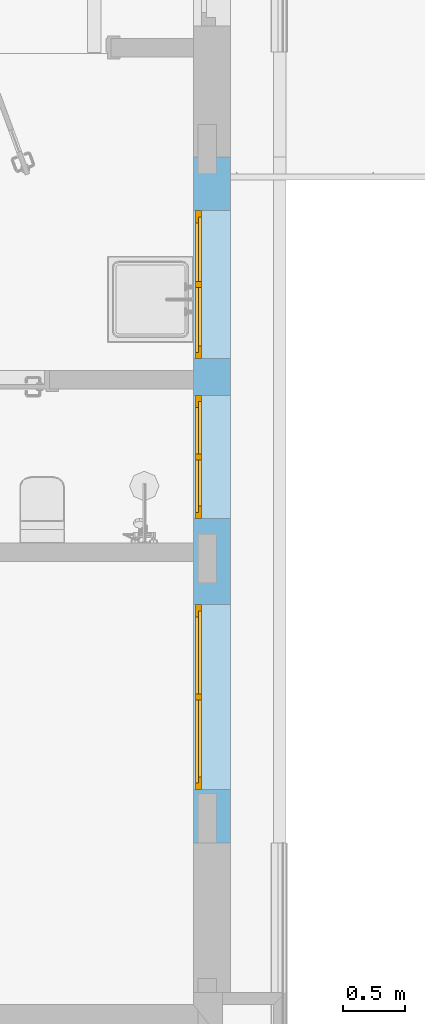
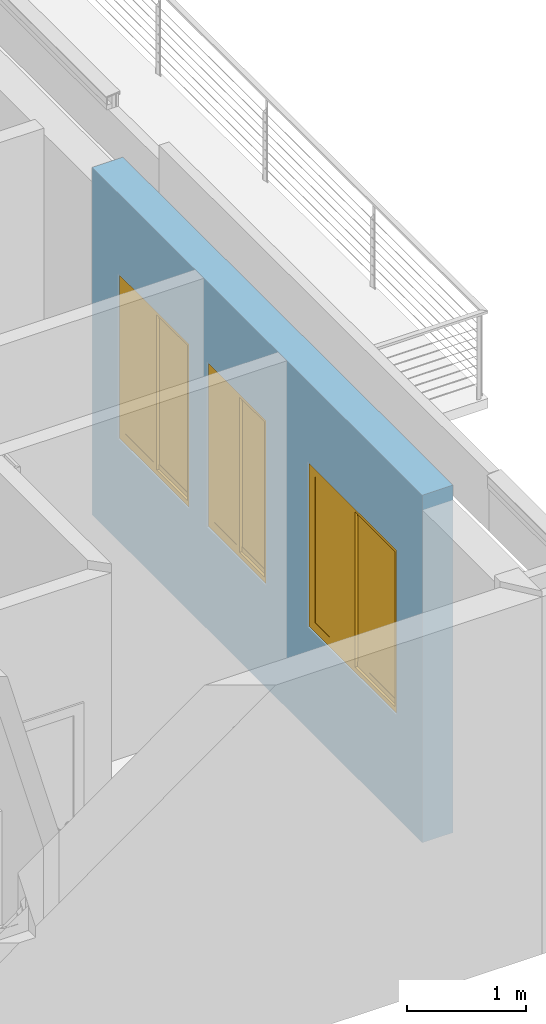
# One storey, part 11 of 26: 3 windows, 3 openings, plus 1 element that does not belong to this part.
"""IFC2X3 building model written with IfcOpenShell, lengths in millimetres."""

from ifc_helpers import new_model, entity, si_unit, converted_unit, money_unit, direction, frame, origin_with_axes, origin_2d_with_axis, place, context, subcontext, project, spatial, polyline, rectangle, outline, extrude, open_shell, faceted_brep, surface_model, material, material_list, layer, layer_set, layer_usage, type_object, element, fill, save


model = new_model("IFC2X3")

# Units and contexts
model_context = context("Model", 3, precision=1e-05, world=origin_with_axes(), true_north=direction((0.0, 1.0)))
body_context = subcontext(model_context, "Body", "Model", "MODEL_VIEW")
ifc_project = project(units=[si_unit("LENGTHUNIT", "METRE", prefix="MILLI"), si_unit("AREAUNIT", "SQUARE_METRE"), si_unit("VOLUMEUNIT", "CUBIC_METRE"), converted_unit("PLANEANGLEUNIT", "DEGREE", entity("IfcPlaneAngleMeasure", 0.0174532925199), si_unit("PLANEANGLEUNIT", "RADIAN"), dimensions=[0, 0, 0, 0, 0, 0, 0]), si_unit("SOLIDANGLEUNIT", "STERADIAN"), money_unit("USD"), converted_unit("TIMEUNIT", "Year", entity("IfcTimeMeasure", 31556926.0), si_unit("TIMEUNIT", "SECOND"), dimensions=[0, 0, 0, 0, 0, 0, 0]), si_unit("MASSUNIT", "GRAM"), si_unit("THERMODYNAMICTEMPERATUREUNIT", "DEGREE_CELSIUS"), si_unit("LUMINOUSINTENSITYUNIT", "LUMEN")], contexts=[model_context])

# Site, building, storey
site_placement = place(None, origin_with_axes())
site = spatial("IfcSite", under=ifc_project, at=site_placement, Name="Grove Residential", CompositionType="ELEMENT")
building_placement = place(site_placement, origin_with_axes())
building = spatial("IfcBuilding", under=site, at=building_placement, Name="Building", CompositionType="ELEMENT")
storey_placement = place(building_placement, origin_with_axes())
storey = spatial("IfcBuildingStorey", under=building, at=storey_placement, Name="Ground Floor", CompositionType="ELEMENT", Elevation=0.0)

# Wall, openings, windows
ifc_material_1 = material(Name="Timber - External Cladding")
ifc_layer_1 = layer(ifc_material_1, 40.0, ventilated="UNKNOWN")
ifc_material_2 = material(Name="Air Space - Fixing Zone")
ifc_layer_2 = layer(ifc_material_2, 25.0, ventilated="UNKNOWN")
ifc_material_3 = material(Name="Insulation - Plastic Soft")
ifc_layer_3 = layer(ifc_material_3, 50.0, ventilated="UNKNOWN")
ifc_material_4 = material(Name="Concrete Block")
ifc_layer_4 = layer(ifc_material_4, 150.0, ventilated="UNKNOWN")
ifc_layer_5 = layer(ifc_material_2, 10.0, ventilated="UNKNOWN")
ifc_material_5 = material(Name="Gypsum Plasterboard")
ifc_layer_6 = layer(ifc_material_5, 12.5, ventilated="UNKNOWN")
ifc_layer_7 = layer(ifc_material_5, 12.5, ventilated="UNKNOWN")
ifc_layer_set = layer_set([ifc_layer_1, ifc_layer_2, ifc_layer_3, ifc_layer_4, ifc_layer_5, ifc_layer_6, ifc_layer_7], Name="EWF - 002")
ifc_layer_usage = layer_usage(ifc_layer_set, "AXIS2", "NEGATIVE", 115.0)
wall_type = type_object("IfcWallType", Name="EWF - 002 300", PredefinedType="NOTDEFINED")
wall_placement = place(storey_placement, frame((10185.0, 7035.0, -50.0), z_axis=(0.0, 0.0, 1.0), x_axis=(0.0, -1.0, 0.0)))
wall = element("IfcWallStandardCase", 1, at=wall_placement, inside=storey, type_object=wall_type, material=ifc_layer_usage, Name="SW - 002", context=body_context, shape_type="SweptSolid", body=[
    extrude(outline(polyline([(0.0, -185.0), (5570.00007691, -185.0), (5570.00007691, 115.0), (0.0, 115.0), (0.0, -185.0)])), origin_with_axes(), (0.0, 0.0, 1.0), 3580.0),
])
opening_1_placement = place(wall_placement, frame((1035.0, 0.0, 1050.0), z_axis=(0.0, 0.0, 1.0), x_axis=(1.0, 0.0, 0.0)))
opening_1 = element("IfcOpeningElement", 2, at=opening_1_placement, cuts=wall, Name="W.06", context=body_context, shape_type="SweptSolid", body=[
    extrude(rectangle(XDim=1200.0, YDim=1700.0, at=origin_2d_with_axis()), frame((0.0, -120.0, 850.0), z_axis=(0.0, -1.0, 0.0), x_axis=(-1.0, 0.0, 0.0)), (0.0, 0.0, -1.0), 535.0),
    extrude(rectangle(XDim=1200.0, YDim=1700.0, at=origin_2d_with_axis()), frame((0.0, -120.0, 850.0), z_axis=(0.0, 1.0, 0.0), x_axis=(-1.0, 0.0, 0.0)), (0.0, 0.0, -1.0), 365.0),
])
opening_2_placement = place(wall_placement, frame((4385.0, 0.0, 1050.0), z_axis=(0.0, 0.0, 1.0), x_axis=(1.0, 0.0, 0.0)))
opening_2 = element("IfcOpeningElement", 3, at=opening_2_placement, cuts=wall, Name="W.08", context=body_context, shape_type="SweptSolid", body=[
    extrude(rectangle(XDim=1500.0, YDim=1700.0, at=origin_2d_with_axis()), frame((0.0, -120.0, 850.0), z_axis=(0.0, -1.0, 0.0), x_axis=(-1.0, 0.0, 0.0)), (0.0, 0.0, -1.0), 535.0),
    extrude(rectangle(XDim=1500.0, YDim=1700.0, at=origin_2d_with_axis()), frame((0.0, -120.0, 850.0), z_axis=(0.0, 1.0, 0.0), x_axis=(-1.0, 0.0, 0.0)), (0.0, 0.0, -1.0), 365.0),
])
opening_3_placement = place(wall_placement, frame((2435.0, 0.0, 1050.0), z_axis=(0.0, 0.0, 1.0), x_axis=(1.0, 0.0, 0.0)))
opening_3 = element("IfcOpeningElement", 4, at=opening_3_placement, cuts=wall, Name="W.04", context=body_context, shape_type="SweptSolid", body=[
    extrude(rectangle(XDim=1000.0, YDim=1700.0, at=origin_2d_with_axis()), frame((0.0, -120.0, 850.0), z_axis=(0.0, -1.0, 0.0), x_axis=(-1.0, 0.0, 0.0)), (0.0, 0.0, -1.0), 535.0),
    extrude(rectangle(XDim=1000.0, YDim=1700.0, at=origin_2d_with_axis()), frame((0.0, -120.0, 850.0), z_axis=(0.0, 1.0, 0.0), x_axis=(-1.0, 0.0, 0.0)), (0.0, 0.0, -1.0), 365.0),
])
ifc_material_6 = material(Name="Background")
ifc_material_7 = material(Name="Air Space")
ifc_material_8 = material(Name="Rigid Insulation")
ifc_material_9 = material(Name="Batt Insulation")
ifc_material_list = material_list([ifc_material_6, ifc_material_7, ifc_material_6, ifc_material_6, ifc_material_6, ifc_material_8, ifc_material_6, ifc_material_6, ifc_material_6, ifc_material_6, ifc_material_7, ifc_material_6, ifc_material_9])
window_style = type_object("IfcWindowStyle", Name="Window 21", ConstructionType="NOTDEFINED", OperationType="DOUBLE_PANEL_VERTICAL", ParameterTakesPrecedence=False, Sizeable=False)
window_1_placement = place(opening_1_placement, frame((600.0, 0.0, 0.0), z_axis=(0.0, 0.0, 1.0), x_axis=(-1.0, 0.0, 0.0)))
window_1 = element("IfcWindow", 5, at=window_1_placement, inside=storey, type_object=window_style, material=ifc_material_list, Name="W.06", OverallHeight=1700.0, OverallWidth=1200.0, context=body_context, shape_type="SurfaceModel", body=[
    faceted_brep([(50.0, 120.0, 1650.0), (50.0, 170.0, 1650.0), (0.0, 170.0, 1650.0), (0.0, 120.0, 1650.0), (50.0, 120.0, 50.0), (50.0, 170.0, 50.0), (0.0, 170.0, 50.0), (0.0, 120.0, 50.0)], [[[0, 1, 2, 3]], [[4, 5, 1, 0]], [[1, 5, 6, 2]], [[3, 2, 6, 7]], [[0, 3, 7, 4]], [[7, 6, 5, 4]]]),
    faceted_brep([(1150.0, 120.0, 50.0), (1150.0, 170.0, 50.0), (1200.0, 170.0, 50.0), (1200.0, 120.0, 50.0), (1150.0, 120.0, 1650.0), (1150.0, 170.0, 1650.0), (1200.0, 170.0, 1650.0), (1200.0, 120.0, 1650.0)], [[[0, 1, 2, 3]], [[4, 5, 1, 0]], [[1, 5, 6, 2]], [[3, 2, 6, 7]], [[0, 3, 7, 4]], [[7, 6, 5, 4]]]),
    faceted_brep([(50.0, 120.0, 50.0), (50.0, 170.0, 50.0), (0.0, 170.0, 50.0), (0.0, 120.0, 50.0), (1150.0, 120.0, 50.0), (1150.0, 170.0, 50.0), (1200.0, 170.0, 50.0), (1200.0, 170.0, 0.0), (0.0, 170.0, 0.0), (0.0, 120.0, 0.0), (1200.0, 120.0, 0.0), (1200.0, 120.0, 50.0)], [[[0, 1, 2, 3]], [[4, 5, 1, 0]], [[1, 5, 6, 7, 8, 2]], [[3, 2, 8, 9]], [[0, 3, 9, 10, 11, 4]], [[11, 6, 5, 4]], [[10, 7, 6, 11]], [[9, 8, 7, 10]]]),
    faceted_brep([(1150.0, 120.0, 1650.0), (1150.0, 170.0, 1650.0), (1200.0, 170.0, 1650.0), (1200.0, 120.0, 1650.0), (50.0, 120.0, 1650.0), (50.0, 170.0, 1650.0), (0.0, 170.0, 1650.0), (0.0, 170.0, 1700.0), (1200.0, 170.0, 1700.0), (1200.0, 120.0, 1700.0), (0.0, 120.0, 1700.0), (0.0, 120.0, 1650.0)], [[[0, 1, 2, 3]], [[4, 5, 1, 0]], [[1, 5, 6, 7, 8, 2]], [[3, 2, 8, 9]], [[0, 3, 9, 10, 11, 4]], [[11, 6, 5, 4]], [[10, 7, 6, 11]], [[9, 8, 7, 10]]]),
    faceted_brep([(625.0, 145.0, 1600.0), (625.0, 170.0, 1600.0), (575.0, 170.0, 1600.0), (575.0, 145.0, 1600.0), (625.0, 145.0, 100.0), (625.0, 170.0, 100.0), (575.0, 170.0, 100.0), (575.0, 145.0, 100.0)], [[[0, 1, 2, 3]], [[4, 5, 1, 0]], [[1, 5, 6, 2]], [[3, 2, 6, 7]], [[0, 3, 7, 4]], [[7, 6, 5, 4]]]),
    faceted_brep([(1100.0, 145.0, 100.0), (1100.0, 170.0, 100.0), (1150.0, 170.0, 100.0), (1150.0, 145.0, 100.0), (1100.0, 145.0, 1600.0), (1100.0, 170.0, 1600.0), (1150.0, 170.0, 1600.0), (1150.0, 145.0, 1600.0)], [[[0, 1, 2, 3]], [[4, 5, 1, 0]], [[1, 5, 6, 2]], [[3, 2, 6, 7]], [[0, 3, 7, 4]], [[7, 6, 5, 4]]]),
    faceted_brep([(1150.0, 145.0, 50.0), (1150.0, 170.0, 50.0), (1150.0, 170.0, 100.0), (1150.0, 145.0, 100.0), (575.0, 145.0, 50.0), (575.0, 170.0, 50.0), (575.0, 170.0, 100.0), (625.0, 170.0, 100.0), (1100.0, 170.0, 100.0), (1100.0, 145.0, 100.0), (625.0, 145.0, 100.0), (575.0, 145.0, 100.0)], [[[0, 1, 2, 3]], [[4, 5, 1, 0]], [[1, 5, 6, 7, 8, 2]], [[3, 2, 8, 9]], [[0, 3, 9, 10, 11, 4]], [[11, 6, 5, 4]], [[10, 7, 6, 11]], [[9, 8, 7, 10]]]),
    faceted_brep([(575.0, 145.0, 1650.0), (575.0, 170.0, 1650.0), (575.0, 170.0, 1600.0), (575.0, 145.0, 1600.0), (1150.0, 145.0, 1650.0), (1150.0, 170.0, 1650.0), (1150.0, 170.0, 1600.0), (1100.0, 170.0, 1600.0), (625.0, 170.0, 1600.0), (625.0, 145.0, 1600.0), (1100.0, 145.0, 1600.0), (1150.0, 145.0, 1600.0)], [[[0, 1, 2, 3]], [[4, 5, 1, 0]], [[1, 5, 6, 7, 8, 2]], [[3, 2, 8, 9]], [[0, 3, 9, 10, 11, 4]], [[11, 6, 5, 4]], [[10, 7, 6, 11]], [[9, 8, 7, 10]]]),
    surface_model("IfcShellBasedSurfaceModel", [(625.0, 147.5, 100.0), (1100.0, 147.5, 100.0), (1100.0, 147.5, 1600.0), (625.0, 147.5, 1600.0)], [open_shell([[[0, 1, 2, 3]]])]),
    surface_model("IfcShellBasedSurfaceModel", [(625.0, 167.5, 100.0), (625.0, 167.5, 1600.0), (1100.0, 167.5, 1600.0), (1100.0, 167.5, 100.0)], [open_shell([[[0, 1, 2, 3]]])]),
    faceted_brep([(100.0, 120.0, 1600.0), (100.0, 145.0, 1600.0), (50.0, 145.0, 1600.0), (50.0, 120.0, 1600.0), (100.0, 120.0, 100.0), (100.0, 145.0, 100.0), (50.0, 145.0, 100.0), (50.0, 120.0, 100.0)], [[[0, 1, 2, 3]], [[4, 5, 1, 0]], [[1, 5, 6, 2]], [[3, 2, 6, 7]], [[0, 3, 7, 4]], [[7, 6, 5, 4]]]),
    faceted_brep([(575.0, 120.0, 100.0), (575.0, 145.0, 100.0), (625.0, 145.0, 100.0), (625.0, 120.0, 100.0), (575.0, 120.0, 1600.0), (575.0, 145.0, 1600.0), (625.0, 145.0, 1600.0), (625.0, 120.0, 1600.0)], [[[0, 1, 2, 3]], [[4, 5, 1, 0]], [[1, 5, 6, 2]], [[3, 2, 6, 7]], [[0, 3, 7, 4]], [[7, 6, 5, 4]]]),
    faceted_brep([(625.0, 120.0, 50.0), (625.0, 145.0, 50.0), (625.0, 145.0, 100.0), (625.0, 120.0, 100.0), (50.0, 120.0, 50.0), (50.0, 145.0, 50.0), (50.0, 145.0, 100.0), (100.0, 145.0, 100.0), (575.0, 145.0, 100.0), (575.0, 120.0, 100.0), (100.0, 120.0, 100.0), (50.0, 120.0, 100.0)], [[[0, 1, 2, 3]], [[4, 5, 1, 0]], [[1, 5, 6, 7, 8, 2]], [[3, 2, 8, 9]], [[0, 3, 9, 10, 11, 4]], [[11, 6, 5, 4]], [[10, 7, 6, 11]], [[9, 8, 7, 10]]]),
    faceted_brep([(50.0, 120.0, 1650.0), (50.0, 145.0, 1650.0), (50.0, 145.0, 1600.0), (50.0, 120.0, 1600.0), (625.0, 120.0, 1650.0), (625.0, 145.0, 1650.0), (625.0, 145.0, 1600.0), (575.0, 145.0, 1600.0), (100.0, 145.0, 1600.0), (100.0, 120.0, 1600.0), (575.0, 120.0, 1600.0), (625.0, 120.0, 1600.0)], [[[0, 1, 2, 3]], [[4, 5, 1, 0]], [[1, 5, 6, 7, 8, 2]], [[3, 2, 8, 9]], [[0, 3, 9, 10, 11, 4]], [[11, 6, 5, 4]], [[10, 7, 6, 11]], [[9, 8, 7, 10]]]),
    surface_model("IfcShellBasedSurfaceModel", [(100.0, 122.5, 100.0), (575.0, 122.5, 100.0), (575.0, 122.5, 1600.0), (100.0, 122.5, 1600.0)], [open_shell([[[0, 1, 2, 3]]])]),
    surface_model("IfcShellBasedSurfaceModel", [(100.0, 142.5, 100.0), (100.0, 142.5, 1600.0), (575.0, 142.5, 1600.0), (575.0, 142.5, 100.0)], [open_shell([[[0, 1, 2, 3]]])]),
])
fill(opening_1, window_1)
window_2_placement = place(opening_2_placement, frame((750.0, 0.0, 0.0), z_axis=(0.0, 0.0, 1.0), x_axis=(-1.0, 0.0, 0.0)))
window_2 = element("IfcWindow", 6, at=window_2_placement, inside=storey, type_object=window_style, material=ifc_material_list, Name="W.08", OverallHeight=1700.0, OverallWidth=1500.0, context=body_context, shape_type="SurfaceModel", body=[
    faceted_brep([(50.0, 120.0, 1650.0), (50.0, 170.0, 1650.0), (0.0, 170.0, 1650.0), (0.0, 120.0, 1650.0), (50.0, 120.0, 50.0), (50.0, 170.0, 50.0), (0.0, 170.0, 50.0), (0.0, 120.0, 50.0)], [[[0, 1, 2, 3]], [[4, 5, 1, 0]], [[1, 5, 6, 2]], [[3, 2, 6, 7]], [[0, 3, 7, 4]], [[7, 6, 5, 4]]]),
    faceted_brep([(1450.0, 120.0, 50.0), (1450.0, 170.0, 50.0), (1500.0, 170.0, 50.0), (1500.0, 120.0, 50.0), (1450.0, 120.0, 1650.0), (1450.0, 170.0, 1650.0), (1500.0, 170.0, 1650.0), (1500.0, 120.0, 1650.0)], [[[0, 1, 2, 3]], [[4, 5, 1, 0]], [[1, 5, 6, 2]], [[3, 2, 6, 7]], [[0, 3, 7, 4]], [[7, 6, 5, 4]]]),
    faceted_brep([(50.0, 120.0, 50.0), (50.0, 170.0, 50.0), (0.0, 170.0, 50.0), (0.0, 120.0, 50.0), (1450.0, 120.0, 50.0), (1450.0, 170.0, 50.0), (1500.0, 170.0, 50.0), (1500.0, 170.0, 0.0), (0.0, 170.0, 0.0), (0.0, 120.0, 0.0), (1500.0, 120.0, 0.0), (1500.0, 120.0, 50.0)], [[[0, 1, 2, 3]], [[4, 5, 1, 0]], [[1, 5, 6, 7, 8, 2]], [[3, 2, 8, 9]], [[0, 3, 9, 10, 11, 4]], [[11, 6, 5, 4]], [[10, 7, 6, 11]], [[9, 8, 7, 10]]]),
    faceted_brep([(1450.0, 120.0, 1650.0), (1450.0, 170.0, 1650.0), (1500.0, 170.0, 1650.0), (1500.0, 120.0, 1650.0), (50.0, 120.0, 1650.0), (50.0, 170.0, 1650.0), (0.0, 170.0, 1650.0), (0.0, 170.0, 1700.0), (1500.0, 170.0, 1700.0), (1500.0, 120.0, 1700.0), (0.0, 120.0, 1700.0), (0.0, 120.0, 1650.0)], [[[0, 1, 2, 3]], [[4, 5, 1, 0]], [[1, 5, 6, 7, 8, 2]], [[3, 2, 8, 9]], [[0, 3, 9, 10, 11, 4]], [[11, 6, 5, 4]], [[10, 7, 6, 11]], [[9, 8, 7, 10]]]),
    faceted_brep([(775.0, 145.0, 1600.0), (775.0, 170.0, 1600.0), (725.0, 170.0, 1600.0), (725.0, 145.0, 1600.0), (775.0, 145.0, 100.0), (775.0, 170.0, 100.0), (725.0, 170.0, 100.0), (725.0, 145.0, 100.0)], [[[0, 1, 2, 3]], [[4, 5, 1, 0]], [[1, 5, 6, 2]], [[3, 2, 6, 7]], [[0, 3, 7, 4]], [[7, 6, 5, 4]]]),
    faceted_brep([(1400.0, 145.0, 100.0), (1400.0, 170.0, 100.0), (1450.0, 170.0, 100.0), (1450.0, 145.0, 100.0), (1400.0, 145.0, 1600.0), (1400.0, 170.0, 1600.0), (1450.0, 170.0, 1600.0), (1450.0, 145.0, 1600.0)], [[[0, 1, 2, 3]], [[4, 5, 1, 0]], [[1, 5, 6, 2]], [[3, 2, 6, 7]], [[0, 3, 7, 4]], [[7, 6, 5, 4]]]),
    faceted_brep([(1450.0, 145.0, 50.0), (1450.0, 170.0, 50.0), (1450.0, 170.0, 100.0), (1450.0, 145.0, 100.0), (725.0, 145.0, 50.0), (725.0, 170.0, 50.0), (725.0, 170.0, 100.0), (775.0, 170.0, 100.0), (1400.0, 170.0, 100.0), (1400.0, 145.0, 100.0), (775.0, 145.0, 100.0), (725.0, 145.0, 100.0)], [[[0, 1, 2, 3]], [[4, 5, 1, 0]], [[1, 5, 6, 7, 8, 2]], [[3, 2, 8, 9]], [[0, 3, 9, 10, 11, 4]], [[11, 6, 5, 4]], [[10, 7, 6, 11]], [[9, 8, 7, 10]]]),
    faceted_brep([(725.0, 145.0, 1650.0), (725.0, 170.0, 1650.0), (725.0, 170.0, 1600.0), (725.0, 145.0, 1600.0), (1450.0, 145.0, 1650.0), (1450.0, 170.0, 1650.0), (1450.0, 170.0, 1600.0), (1400.0, 170.0, 1600.0), (775.0, 170.0, 1600.0), (775.0, 145.0, 1600.0), (1400.0, 145.0, 1600.0), (1450.0, 145.0, 1600.0)], [[[0, 1, 2, 3]], [[4, 5, 1, 0]], [[1, 5, 6, 7, 8, 2]], [[3, 2, 8, 9]], [[0, 3, 9, 10, 11, 4]], [[11, 6, 5, 4]], [[10, 7, 6, 11]], [[9, 8, 7, 10]]]),
    surface_model("IfcShellBasedSurfaceModel", [(775.0, 147.5, 100.0), (1400.0, 147.5, 100.0), (1400.0, 147.5, 1600.0), (775.0, 147.5, 1600.0)], [open_shell([[[0, 1, 2, 3]]])]),
    surface_model("IfcShellBasedSurfaceModel", [(775.0, 167.5, 100.0), (775.0, 167.5, 1600.0), (1400.0, 167.5, 1600.0), (1400.0, 167.5, 100.0)], [open_shell([[[0, 1, 2, 3]]])]),
    faceted_brep([(100.0, 120.0, 1600.0), (100.0, 145.0, 1600.0), (50.0, 145.0, 1600.0), (50.0, 120.0, 1600.0), (100.0, 120.0, 100.0), (100.0, 145.0, 100.0), (50.0, 145.0, 100.0), (50.0, 120.0, 100.0)], [[[0, 1, 2, 3]], [[4, 5, 1, 0]], [[1, 5, 6, 2]], [[3, 2, 6, 7]], [[0, 3, 7, 4]], [[7, 6, 5, 4]]]),
    faceted_brep([(725.0, 120.0, 100.0), (725.0, 145.0, 100.0), (775.0, 145.0, 100.0), (775.0, 120.0, 100.0), (725.0, 120.0, 1600.0), (725.0, 145.0, 1600.0), (775.0, 145.0, 1600.0), (775.0, 120.0, 1600.0)], [[[0, 1, 2, 3]], [[4, 5, 1, 0]], [[1, 5, 6, 2]], [[3, 2, 6, 7]], [[0, 3, 7, 4]], [[7, 6, 5, 4]]]),
    faceted_brep([(775.0, 120.0, 50.0), (775.0, 145.0, 50.0), (775.0, 145.0, 100.0), (775.0, 120.0, 100.0), (50.0, 120.0, 50.0), (50.0, 145.0, 50.0), (50.0, 145.0, 100.0), (100.0, 145.0, 100.0), (725.0, 145.0, 100.0), (725.0, 120.0, 100.0), (100.0, 120.0, 100.0), (50.0, 120.0, 100.0)], [[[0, 1, 2, 3]], [[4, 5, 1, 0]], [[1, 5, 6, 7, 8, 2]], [[3, 2, 8, 9]], [[0, 3, 9, 10, 11, 4]], [[11, 6, 5, 4]], [[10, 7, 6, 11]], [[9, 8, 7, 10]]]),
    faceted_brep([(50.0, 120.0, 1650.0), (50.0, 145.0, 1650.0), (50.0, 145.0, 1600.0), (50.0, 120.0, 1600.0), (775.0, 120.0, 1650.0), (775.0, 145.0, 1650.0), (775.0, 145.0, 1600.0), (725.0, 145.0, 1600.0), (100.0, 145.0, 1600.0), (100.0, 120.0, 1600.0), (725.0, 120.0, 1600.0), (775.0, 120.0, 1600.0)], [[[0, 1, 2, 3]], [[4, 5, 1, 0]], [[1, 5, 6, 7, 8, 2]], [[3, 2, 8, 9]], [[0, 3, 9, 10, 11, 4]], [[11, 6, 5, 4]], [[10, 7, 6, 11]], [[9, 8, 7, 10]]]),
    surface_model("IfcShellBasedSurfaceModel", [(100.0, 122.5, 100.0), (725.0, 122.5, 100.0), (725.0, 122.5, 1600.0), (100.0, 122.5, 1600.0)], [open_shell([[[0, 1, 2, 3]]])]),
    surface_model("IfcShellBasedSurfaceModel", [(100.0, 142.5, 100.0), (100.0, 142.5, 1600.0), (725.0, 142.5, 1600.0), (725.0, 142.5, 100.0)], [open_shell([[[0, 1, 2, 3]]])]),
])
fill(opening_2, window_2)
window_3_placement = place(opening_3_placement, frame((500.0, 0.0, 0.0), z_axis=(0.0, 0.0, 1.0), x_axis=(-1.0, 0.0, 0.0)))
window_3 = element("IfcWindow", 7, at=window_3_placement, inside=storey, type_object=window_style, material=ifc_material_list, Name="W.04", OverallHeight=1700.0, OverallWidth=1000.0, context=body_context, shape_type="SurfaceModel", body=[
    faceted_brep([(50.0, 120.0, 1650.0), (50.0, 170.0, 1650.0), (0.0, 170.0, 1650.0), (0.0, 120.0, 1650.0), (50.0, 120.0, 50.0), (50.0, 170.0, 50.0), (0.0, 170.0, 50.0), (0.0, 120.0, 50.0)], [[[0, 1, 2, 3]], [[4, 5, 1, 0]], [[1, 5, 6, 2]], [[3, 2, 6, 7]], [[0, 3, 7, 4]], [[7, 6, 5, 4]]]),
    faceted_brep([(950.0, 120.0, 50.0), (950.0, 170.0, 50.0), (1000.0, 170.0, 50.0), (1000.0, 120.0, 50.0), (950.0, 120.0, 1650.0), (950.0, 170.0, 1650.0), (1000.0, 170.0, 1650.0), (1000.0, 120.0, 1650.0)], [[[0, 1, 2, 3]], [[4, 5, 1, 0]], [[1, 5, 6, 2]], [[3, 2, 6, 7]], [[0, 3, 7, 4]], [[7, 6, 5, 4]]]),
    faceted_brep([(50.0, 120.0, 50.0), (50.0, 170.0, 50.0), (0.0, 170.0, 50.0), (0.0, 120.0, 50.0), (950.0, 120.0, 50.0), (950.0, 170.0, 50.0), (1000.0, 170.0, 50.0), (1000.0, 170.0, 0.0), (0.0, 170.0, 0.0), (0.0, 120.0, 0.0), (1000.0, 120.0, 0.0), (1000.0, 120.0, 50.0)], [[[0, 1, 2, 3]], [[4, 5, 1, 0]], [[1, 5, 6, 7, 8, 2]], [[3, 2, 8, 9]], [[0, 3, 9, 10, 11, 4]], [[11, 6, 5, 4]], [[10, 7, 6, 11]], [[9, 8, 7, 10]]]),
    faceted_brep([(950.0, 120.0, 1650.0), (950.0, 170.0, 1650.0), (1000.0, 170.0, 1650.0), (1000.0, 120.0, 1650.0), (50.0, 120.0, 1650.0), (50.0, 170.0, 1650.0), (0.0, 170.0, 1650.0), (0.0, 170.0, 1700.0), (1000.0, 170.0, 1700.0), (1000.0, 120.0, 1700.0), (0.0, 120.0, 1700.0), (0.0, 120.0, 1650.0)], [[[0, 1, 2, 3]], [[4, 5, 1, 0]], [[1, 5, 6, 7, 8, 2]], [[3, 2, 8, 9]], [[0, 3, 9, 10, 11, 4]], [[11, 6, 5, 4]], [[10, 7, 6, 11]], [[9, 8, 7, 10]]]),
    faceted_brep([(525.0, 145.0, 1600.0), (525.0, 170.0, 1600.0), (475.0, 170.0, 1600.0), (475.0, 145.0, 1600.0), (525.0, 145.0, 100.0), (525.0, 170.0, 100.0), (475.0, 170.0, 100.0), (475.0, 145.0, 100.0)], [[[0, 1, 2, 3]], [[4, 5, 1, 0]], [[1, 5, 6, 2]], [[3, 2, 6, 7]], [[0, 3, 7, 4]], [[7, 6, 5, 4]]]),
    faceted_brep([(900.0, 145.0, 100.0), (900.0, 170.0, 100.0), (950.0, 170.0, 100.0), (950.0, 145.0, 100.0), (900.0, 145.0, 1600.0), (900.0, 170.0, 1600.0), (950.0, 170.0, 1600.0), (950.0, 145.0, 1600.0)], [[[0, 1, 2, 3]], [[4, 5, 1, 0]], [[1, 5, 6, 2]], [[3, 2, 6, 7]], [[0, 3, 7, 4]], [[7, 6, 5, 4]]]),
    faceted_brep([(950.0, 145.0, 50.0), (950.0, 170.0, 50.0), (950.0, 170.0, 100.0), (950.0, 145.0, 100.0), (475.0, 145.0, 50.0), (475.0, 170.0, 50.0), (475.0, 170.0, 100.0), (525.0, 170.0, 100.0), (900.0, 170.0, 100.0), (900.0, 145.0, 100.0), (525.0, 145.0, 100.0), (475.0, 145.0, 100.0)], [[[0, 1, 2, 3]], [[4, 5, 1, 0]], [[1, 5, 6, 7, 8, 2]], [[3, 2, 8, 9]], [[0, 3, 9, 10, 11, 4]], [[11, 6, 5, 4]], [[10, 7, 6, 11]], [[9, 8, 7, 10]]]),
    faceted_brep([(475.0, 145.0, 1650.0), (475.0, 170.0, 1650.0), (475.0, 170.0, 1600.0), (475.0, 145.0, 1600.0), (950.0, 145.0, 1650.0), (950.0, 170.0, 1650.0), (950.0, 170.0, 1600.0), (900.0, 170.0, 1600.0), (525.0, 170.0, 1600.0), (525.0, 145.0, 1600.0), (900.0, 145.0, 1600.0), (950.0, 145.0, 1600.0)], [[[0, 1, 2, 3]], [[4, 5, 1, 0]], [[1, 5, 6, 7, 8, 2]], [[3, 2, 8, 9]], [[0, 3, 9, 10, 11, 4]], [[11, 6, 5, 4]], [[10, 7, 6, 11]], [[9, 8, 7, 10]]]),
    surface_model("IfcShellBasedSurfaceModel", [(525.0, 147.5, 100.0), (900.0, 147.5, 100.0), (900.0, 147.5, 1600.0), (525.0, 147.5, 1600.0)], [open_shell([[[0, 1, 2, 3]]])]),
    surface_model("IfcShellBasedSurfaceModel", [(525.0, 167.5, 100.0), (525.0, 167.5, 1600.0), (900.0, 167.5, 1600.0), (900.0, 167.5, 100.0)], [open_shell([[[0, 1, 2, 3]]])]),
    faceted_brep([(100.0, 120.0, 1600.0), (100.0, 145.0, 1600.0), (50.0, 145.0, 1600.0), (50.0, 120.0, 1600.0), (100.0, 120.0, 100.0), (100.0, 145.0, 100.0), (50.0, 145.0, 100.0), (50.0, 120.0, 100.0)], [[[0, 1, 2, 3]], [[4, 5, 1, 0]], [[1, 5, 6, 2]], [[3, 2, 6, 7]], [[0, 3, 7, 4]], [[7, 6, 5, 4]]]),
    faceted_brep([(475.0, 120.0, 100.0), (475.0, 145.0, 100.0), (525.0, 145.0, 100.0), (525.0, 120.0, 100.0), (475.0, 120.0, 1600.0), (475.0, 145.0, 1600.0), (525.0, 145.0, 1600.0), (525.0, 120.0, 1600.0)], [[[0, 1, 2, 3]], [[4, 5, 1, 0]], [[1, 5, 6, 2]], [[3, 2, 6, 7]], [[0, 3, 7, 4]], [[7, 6, 5, 4]]]),
    faceted_brep([(525.0, 120.0, 50.0), (525.0, 145.0, 50.0), (525.0, 145.0, 100.0), (525.0, 120.0, 100.0), (50.0, 120.0, 50.0), (50.0, 145.0, 50.0), (50.0, 145.0, 100.0), (100.0, 145.0, 100.0), (475.0, 145.0, 100.0), (475.0, 120.0, 100.0), (100.0, 120.0, 100.0), (50.0, 120.0, 100.0)], [[[0, 1, 2, 3]], [[4, 5, 1, 0]], [[1, 5, 6, 7, 8, 2]], [[3, 2, 8, 9]], [[0, 3, 9, 10, 11, 4]], [[11, 6, 5, 4]], [[10, 7, 6, 11]], [[9, 8, 7, 10]]]),
    faceted_brep([(50.0, 120.0, 1650.0), (50.0, 145.0, 1650.0), (50.0, 145.0, 1600.0), (50.0, 120.0, 1600.0), (525.0, 120.0, 1650.0), (525.0, 145.0, 1650.0), (525.0, 145.0, 1600.0), (475.0, 145.0, 1600.0), (100.0, 145.0, 1600.0), (100.0, 120.0, 1600.0), (475.0, 120.0, 1600.0), (525.0, 120.0, 1600.0)], [[[0, 1, 2, 3]], [[4, 5, 1, 0]], [[1, 5, 6, 7, 8, 2]], [[3, 2, 8, 9]], [[0, 3, 9, 10, 11, 4]], [[11, 6, 5, 4]], [[10, 7, 6, 11]], [[9, 8, 7, 10]]]),
    surface_model("IfcShellBasedSurfaceModel", [(100.0, 122.5, 100.0), (475.0, 122.5, 100.0), (475.0, 122.5, 1600.0), (100.0, 122.5, 1600.0)], [open_shell([[[0, 1, 2, 3]]])]),
    surface_model("IfcShellBasedSurfaceModel", [(100.0, 142.5, 100.0), (100.0, 142.5, 1600.0), (475.0, 142.5, 1600.0), (475.0, 142.5, 100.0)], [open_shell([[[0, 1, 2, 3]]])]),
])
fill(opening_3, window_3)

save(model, "model.ifc")
